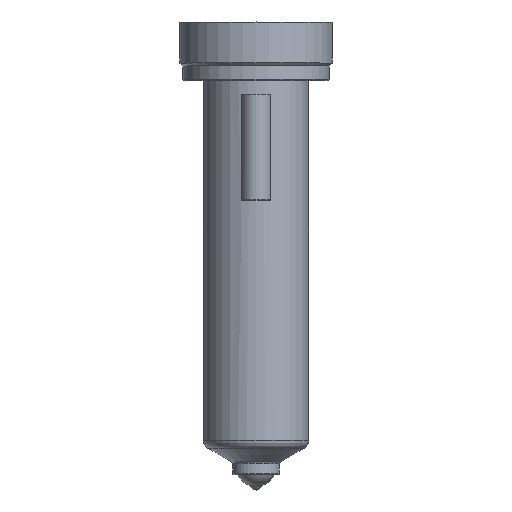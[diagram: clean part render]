
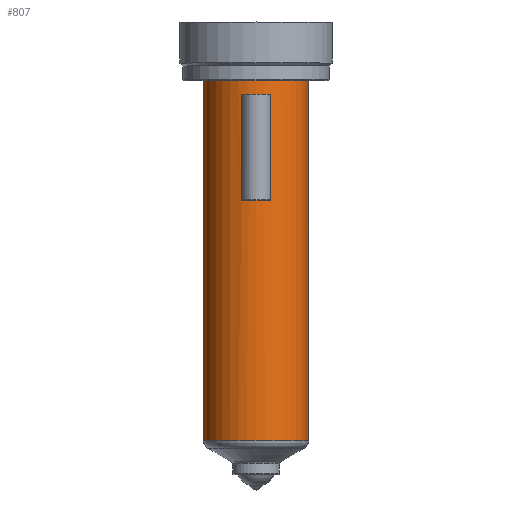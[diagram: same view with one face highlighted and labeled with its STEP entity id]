
A CAD part, top view. The second image highlights one B-rep face of the part: STEP entity #807.
In plain terms, the highlighted cylindrical face has radius 9 mm (diameter 18 mm), a partial arc.
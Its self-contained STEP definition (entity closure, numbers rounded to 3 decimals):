
#193=DIRECTION('',(0.,-1.,0.));
#194=VECTOR('',#193,61.544);
#195=CARTESIAN_POINT('',(9.,0.,0.));
#196=LINE('',#195,#194);
#197=CARTESIAN_POINT('',(0.,-61.544,0.));
#198=DIRECTION('',(0.,1.,0.));
#199=DIRECTION('',(-1.,0.,0.));
#200=AXIS2_PLACEMENT_3D('',#197,#198,#199);
#202=DIRECTION('',(0.,1.,0.));
#203=VECTOR('',#202,61.544);
#204=CARTESIAN_POINT('',(-9.,-61.544,0.));
#205=LINE('',#204,#203);
#206=CARTESIAN_POINT('',(0.,0.,0.));
#207=DIRECTION('',(0.,1.,0.));
#208=DIRECTION('',(-1.,0.,0.));
#209=AXIS2_PLACEMENT_3D('',#206,#207,#208);
#211=DIRECTION('',(0.,-1.,0.));
#212=VECTOR('',#211,18.);
#213=CARTESIAN_POINT('',(-2.5,-2.5,8.646));
#214=LINE('',#213,#212);
#215=DIRECTION('',(0.,1.,0.));
#216=VECTOR('',#215,18.);
#217=CARTESIAN_POINT('',(2.5,-20.5,8.646));
#218=LINE('',#217,#216);
#385=CARTESIAN_POINT('',(0.,-2.5,0.));
#386=DIRECTION('',(0.,-1.,0.));
#387=DIRECTION('',(0.278,0.,0.961));
#388=AXIS2_PLACEMENT_3D('',#385,#386,#387);
#403=CARTESIAN_POINT('',(0.,-20.5,0.));
#404=DIRECTION('',(0.,1.,0.));
#405=DIRECTION('',(-0.278,0.,0.961));
#406=AXIS2_PLACEMENT_3D('',#403,#404,#405);
#482=CARTESIAN_POINT('',(-9.,0.,0.));
#483=CARTESIAN_POINT('',(9.,0.,0.));
#484=VERTEX_POINT('',#482);
#485=VERTEX_POINT('',#483);
#494=CARTESIAN_POINT('',(-2.5,-2.5,8.646));
#495=VERTEX_POINT('',#494);
#496=CARTESIAN_POINT('',(2.5,-2.5,8.646));
#497=VERTEX_POINT('',#496);
#534=CARTESIAN_POINT('',(9.,-61.544,0.));
#535=VERTEX_POINT('',#534);
#544=CARTESIAN_POINT('',(-9.,-61.544,0.));
#545=VERTEX_POINT('',#544);
#566=CARTESIAN_POINT('',(-2.5,-20.5,8.646));
#567=CARTESIAN_POINT('',(2.5,-20.5,8.646));
#568=VERTEX_POINT('',#566);
#569=VERTEX_POINT('',#567);
#785=CARTESIAN_POINT('',(0.,11.15,0.));
#786=DIRECTION('',(0.,-1.,0.));
#787=DIRECTION('',(-1.,0.,0.));
#788=AXIS2_PLACEMENT_3D('',#785,#786,#787);
#789=CYLINDRICAL_SURFACE('',#788,9.);
#790=ORIENTED_EDGE('',*,*,#779,.T.);
#792=ORIENTED_EDGE('',*,*,#791,.F.);
#793=ORIENTED_EDGE('',*,*,#775,.T.);
#794=ORIENTED_EDGE('',*,*,#765,.T.);
#795=EDGE_LOOP('',(#790,#792,#793,#794));
#796=FACE_OUTER_BOUND('',#795,.F.);
#798=ORIENTED_EDGE('',*,*,#797,.T.);
#800=ORIENTED_EDGE('',*,*,#799,.T.);
#802=ORIENTED_EDGE('',*,*,#801,.T.);
#804=ORIENTED_EDGE('',*,*,#803,.T.);
#805=EDGE_LOOP('',(#798,#800,#802,#804));
#806=FACE_BOUND('',#805,.F.);
#807=ADVANCED_FACE('',(#796,#806),#789,.T.);
#201=CIRCLE('',#200,9.);
#210=CIRCLE('',#209,9.);
#389=CIRCLE('',#388,9.);
#407=CIRCLE('',#406,9.);
#765=EDGE_CURVE('',#484,#485,#210,.T.);
#775=EDGE_CURVE('',#545,#484,#205,.T.);
#779=EDGE_CURVE('',#485,#535,#196,.T.);
#791=EDGE_CURVE('',#545,#535,#201,.T.);
#797=EDGE_CURVE('',#495,#568,#214,.T.);
#799=EDGE_CURVE('',#568,#569,#407,.T.);
#801=EDGE_CURVE('',#569,#497,#218,.T.);
#803=EDGE_CURVE('',#497,#495,#389,.T.);
